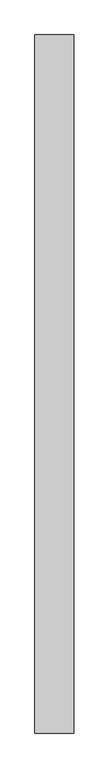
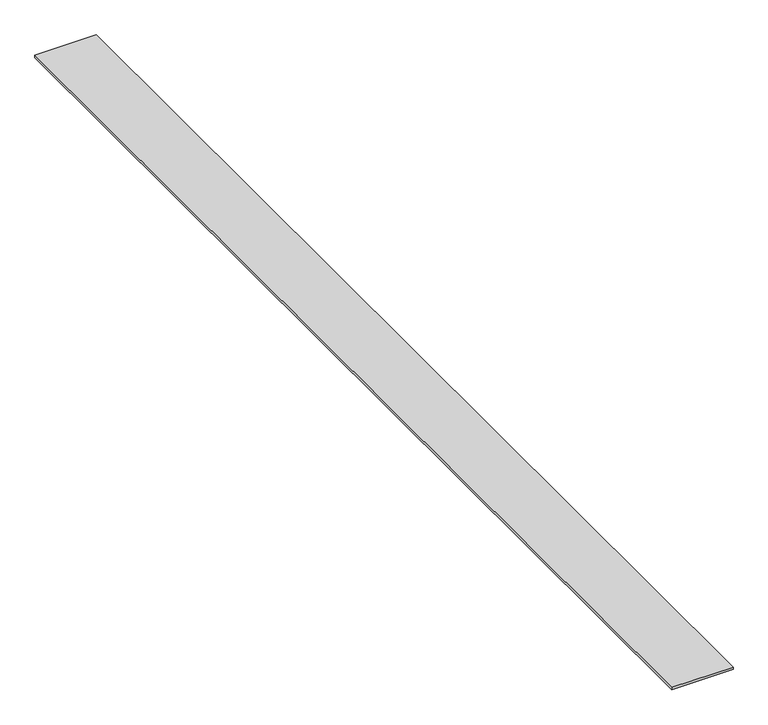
"""IFC4 building model written with IfcOpenShell, lengths in millimetres: proxy geometry, Фиброцементная сайдинг-панель LATONIT : 8 мм."""

from ifc_helpers import new_model, si_unit, frame, origin, place, context, project, spatial, polyline, outline, extrude, source, transform, mapped, element, save


def generic_models_0f481bf6(model_context):
    return source(origin(), model_context, "Body", "SweptSolid", [
        extrude(outline(polyline([(200.0, 3600.0), (200.0, 0.0), (0.0, 0.0), (0.0, 3600.0), (200.0, 3600.0)])), frame((0.0, 0.0, 242.0), z_axis=(0.0, 0.0, 1.0), x_axis=(1.0, 0.0, 0.0)), (0.0, 0.0, 1.0), 8.0),
    ])


if __name__ == "__main__":
    model = new_model("IFC4")
    model_context = context("Model", 3, world=origin())
    ifc_project = project(units=[si_unit("LENGTHUNIT", "METRE", prefix="MILLI")], contexts=[model_context])
    site = spatial("IfcSite", under=ifc_project)
    building = spatial("IfcBuilding", under=site)
    placement = place(None, origin())
    generic_models_shape = generic_models_0f481bf6(model_context)
    element("IfcBuildingElementProxy", 1, Name="Фиброцементная сайдинг-панель LATONIT : 8 мм", ObjectType="Фиброцементная сайдинг-панель LATONIT : 8 мм", at=placement, inside=building, context=model_context, shape_type="MappedRepresentation", body=[
        mapped(generic_models_shape, transform((0.0, 0.0, 0.0), x_axis=(1.0, 0.0, 0.0), y_axis=(0.0, 1.0, 0.0), z_axis=(0.0, 0.0, 1.0))),
    ])
    save(model, "model.ifc")
